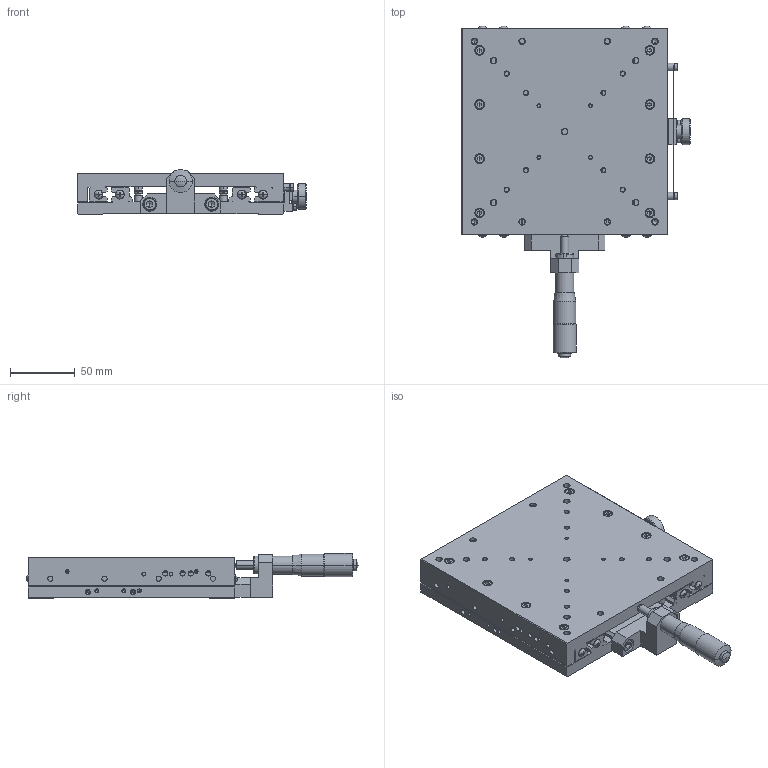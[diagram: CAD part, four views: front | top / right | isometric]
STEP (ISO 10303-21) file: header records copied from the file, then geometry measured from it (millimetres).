
FILE_DESCRIPTION (( 'STEP AP214' ), '1' );
FILE_NAME ('XM16A-C1.STEP', '2009-05-11T07:41:09', ( ' ' ), ( ' ' ), 'SwSTEP 2.0', 'SolidWorks 2008', '' );
FILE_SCHEMA (( 'AUTOMOTIVE_DESIGN' ));
Length unit declared in the file: millimetre
Products named in the file (5): 000090-1012(3D)-1; 000090-1021(3D)-Part-2; 000090-1021(3D)-Part-1; 000090-1021(3D); XM16A-C1
Assembly tree (4 placements, depth 3):
  XM16A-C1
    000090-1012(3D)-1
    000090-1021(3D)
      000090-1021(3D)-Part-1
      000090-1021(3D)-Part-2
Bounding box: 177.5 x 257.37 x 35 mm (x, y, z)
Volume: 698482.7 mm3; surface area: 179022.7 mm2
Topology: 3 solids, 53 shells, 1809 faces, 4193 edges, 2492 vertices
Faces by surface type: plane 785, cylinder 578, cone 410, sphere 20, torus 16
Entity records: 50860 total; most frequent: DIRECTION 9529, CARTESIAN_POINT 8592, ORIENTED_EDGE 8190, EDGE_CURVE 4095, AXIS2_PLACEMENT_3D 3661, VERTEX_POINT 2492, VECTOR 2207, LINE 2207
